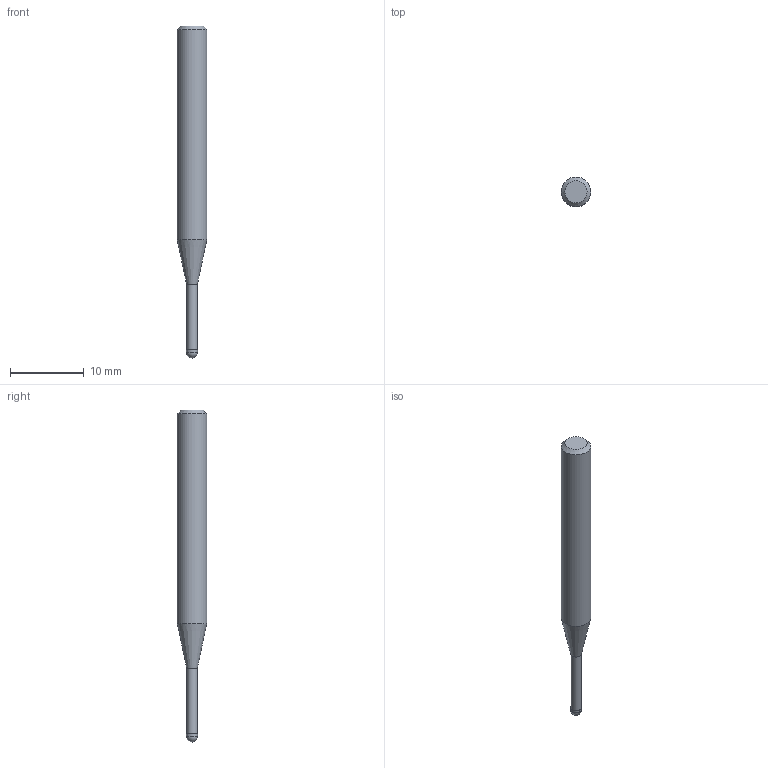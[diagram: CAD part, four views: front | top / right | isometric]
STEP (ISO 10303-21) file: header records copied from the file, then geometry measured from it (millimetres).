
FILE_DESCRIPTION((''),'2;1');
FILE_NAME('C:\Users\nsx150\AppData\Local\Temp\Mastercam 2021\3SYKECWX22\TEMP.step','2021-04-22T10:03:20',(''),(''),'STEP Write','Mastercam 2021 ... CNC Software, Inc.','');
FILE_SCHEMA(('AUTOMOTIVE_DESIGN'));
Length unit declared in the file: millimetre
Products named in the file (1): None
Bounding box: 4 x 4 x 45 mm (x, y, z)
Volume: 416.7 mm3; surface area: 474.6 mm2
Topology: 2 solids, 2 shells, 9 faces, 14 edges, 8 vertices
Faces by surface type: plane 3, cylinder 3, cone 2, sphere 1
Full cylindrical faces by diameter (mm): 1.45 x1, 1.5 x1, 4 x1
Entity records: 211 total; most frequent: DIRECTION 36, CARTESIAN_POINT 25, AXIS2_PLACEMENT_3D 18, ORIENTED_EDGE 14, EDGE_LOOP 14, STYLED_ITEM 12, ADVANCED_FACE 9, FACE_BOUND 8
